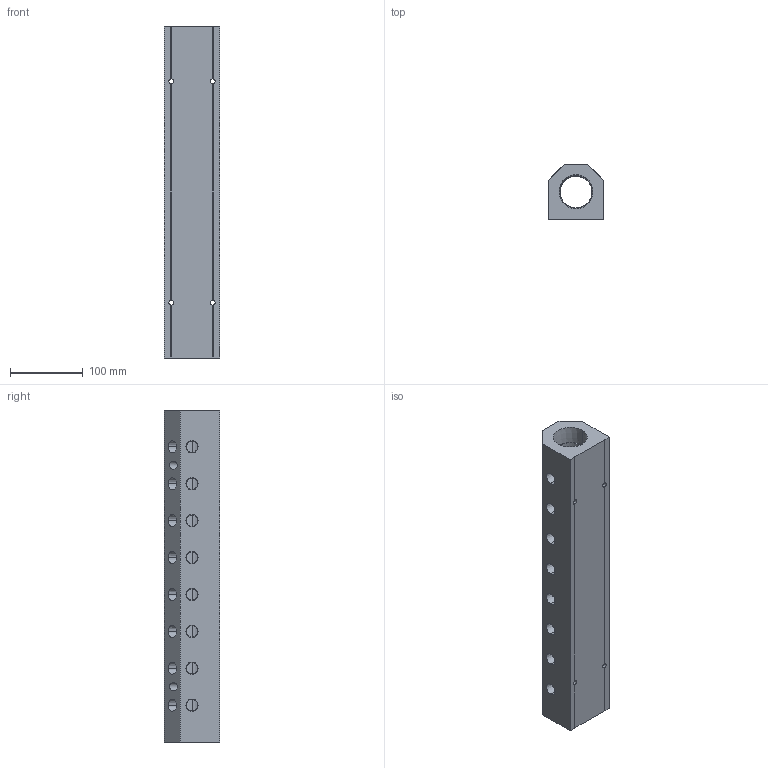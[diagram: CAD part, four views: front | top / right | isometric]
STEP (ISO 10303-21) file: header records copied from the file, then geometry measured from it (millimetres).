
FILE_DESCRIPTION (( 'STEP AP214' ), '1' );
FILE_NAME ('ALM8ABC-N6N24-457B.step', '2022-02-07T09:08:29', ( '' ), ( '' ), 'SwSTEP 2.0', 'SolidWorks 2020', '' );
FILE_SCHEMA (( 'AUTOMOTIVE_DESIGN' ));
Length unit declared in the file: millimetre
Products named in the file (1): ALM8ABC-N6N24-457B
Bounding box: 76.2 x 76.2 x 457 mm (x, y, z)
Volume: 1622269.5 mm3; surface area: 214442.5 mm2
Topology: 1 solids, 1 shells, 365 faces, 978 edges, 644 vertices
Faces by surface type: plane 224, bspline 71, cone 52, cylinder 18
Entity records: 21371 total; most frequent: CARTESIAN_POINT 9203, ORIENTED_EDGE 1956, DIRECTION 1446, EDGE_CURVE 978, LINE 688, VECTOR 688, VERTEX_POINT 644, EDGE_LOOP 452
